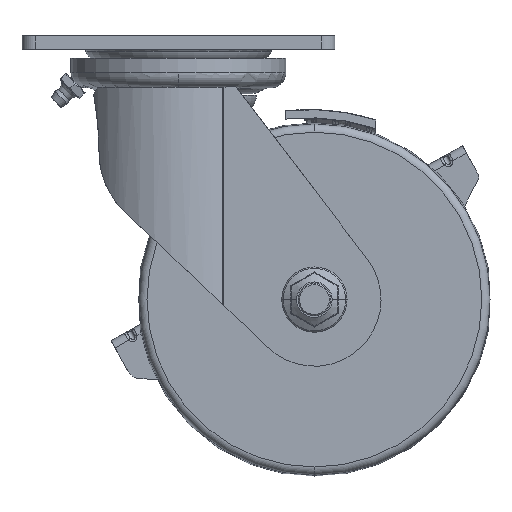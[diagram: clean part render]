
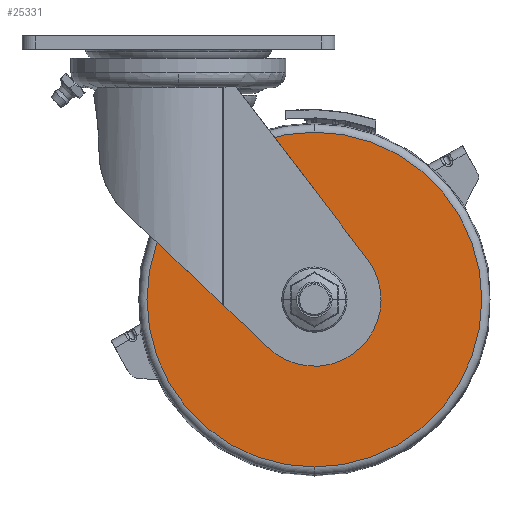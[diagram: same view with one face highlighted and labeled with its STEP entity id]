
A CAD part, front view. The second image highlights one B-rep face of the part: STEP entity #25331.
In plain terms, the highlighted planar face has unit normal (0, -1, 0).
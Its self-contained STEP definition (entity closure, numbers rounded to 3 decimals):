
#1536=CARTESIAN_POINT('',(143.289,-157.285,193.35));
#1537=VERTEX_POINT('',#1536);
#1546=CARTESIAN_POINT('',(143.289,-157.285,70.238));
#1547=VERTEX_POINT('',#1546);
#1555=CARTESIAN_POINT('',(143.289,-157.285,131.794));
#1556=DIRECTION('',(0.0,1.0,0.0));
#1557=DIRECTION('',(0.0,0.0,1.0));
#1558=AXIS2_PLACEMENT_3D('',#1555,#1556,#1557);
#1559=CIRCLE('',#1558,61.556);
#1560=EDGE_CURVE('',#1547,#1537,#1559,.T.);
#1604=CARTESIAN_POINT('',(143.289,-157.285,141.794));
#1605=VERTEX_POINT('',#1604);
#1614=CARTESIAN_POINT('',(143.289,-157.285,121.794));
#1615=VERTEX_POINT('',#1614);
#1616=CARTESIAN_POINT('',(143.289,-157.285,131.794));
#1617=DIRECTION('',(0.0,1.0,0.0));
#1618=DIRECTION('',(0.0,0.0,1.0));
#1619=AXIS2_PLACEMENT_3D('',#1616,#1617,#1618);
#1620=CIRCLE('',#1619,10.0);
#1621=EDGE_CURVE('',#1615,#1605,#1620,.T.);
#25264=CARTESIAN_POINT('',(143.289,-157.285,131.794));
#25265=DIRECTION('',(0.0,1.0,0.0));
#25266=DIRECTION('',(0.0,0.0,1.0));
#25267=AXIS2_PLACEMENT_3D('',#25264,#25265,#25266);
#25268=CIRCLE('',#25267,10.0);
#25269=EDGE_CURVE('',#1605,#1615,#25268,.T.);
#25312=CARTESIAN_POINT('',(143.289,-157.285,167.572));
#25313=DIRECTION('',(0.0,-1.0,0.0));
#25314=DIRECTION('',(0.0,0.0,-1.0));
#25315=AXIS2_PLACEMENT_3D('',#25312,#25313,#25314);
#25316=PLANE('',#25315);
#25317=CARTESIAN_POINT('',(143.289,-157.285,131.794));
#25318=DIRECTION('',(0.0,1.0,0.0));
#25319=DIRECTION('',(0.0,0.0,1.0));
#25320=AXIS2_PLACEMENT_3D('',#25317,#25318,#25319);
#25321=CIRCLE('',#25320,61.556);
#25322=EDGE_CURVE('',#1537,#1547,#25321,.T.);
#25323=ORIENTED_EDGE('',*,*,#25322,.F.);
#25324=ORIENTED_EDGE('',*,*,#1560,.F.);
#25325=EDGE_LOOP('',(#25323,#25324));
#25326=FACE_OUTER_BOUND('',#25325,.T.);
#25327=ORIENTED_EDGE('',*,*,#25269,.T.);
#25328=ORIENTED_EDGE('',*,*,#1621,.T.);
#25329=EDGE_LOOP('',(#25327,#25328));
#25330=FACE_BOUND('',#25329,.T.);
#25331=ADVANCED_FACE('',(#25326,#25330),#25316,.T.);
